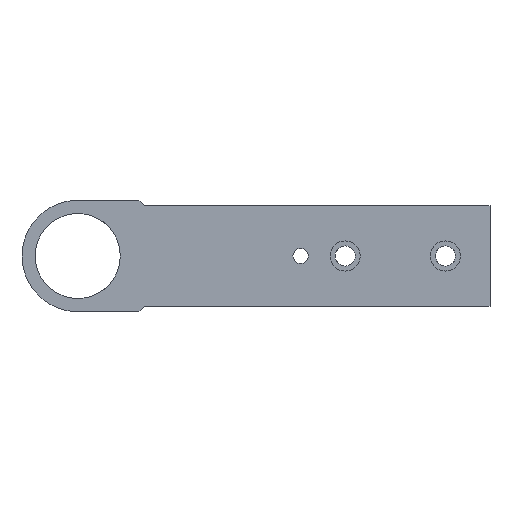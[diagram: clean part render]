
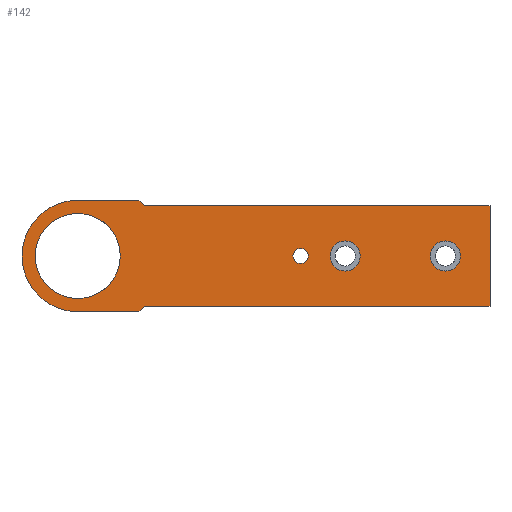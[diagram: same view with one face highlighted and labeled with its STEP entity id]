
A CAD part, top view. The second image highlights one B-rep face of the part: STEP entity #142.
In plain terms, the highlighted planar face has unit normal (0, 0, 1).
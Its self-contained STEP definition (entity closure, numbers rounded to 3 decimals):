
#21 = EDGE_CURVE ( 'NONE', #260, #321, #499, .T. ) ;
#27 = VERTEX_POINT ( 'NONE', #483 ) ;
#30 = ORIENTED_EDGE ( 'NONE', *, *, #406, .F. ) ;
#39 = EDGE_CURVE ( 'NONE', #358, #399, #535, .T. ) ;
#40 = EDGE_LOOP ( 'NONE', ( #66, #46 ) ) ;
#41 = EDGE_CURVE ( 'NONE', #382, #394, #514, .T. ) ;
#42 = EDGE_LOOP ( 'NONE', ( #44, #72 ) ) ;
#43 = EDGE_CURVE ( 'NONE', #346, #345, #479, .T. ) ;
#44 = ORIENTED_EDGE ( 'NONE', *, *, #43, .F. ) ;
#45 = EDGE_LOOP ( 'NONE', ( #86, #79, #84, #80, #73, #78, #108, #122, #57 ) ) ;
#46 = ORIENTED_EDGE ( 'NONE', *, *, #384, .F. ) ;
#47 = ORIENTED_EDGE ( 'NONE', *, *, #316, .T. ) ;
#57 = ORIENTED_EDGE ( 'NONE', *, *, #113, .T. ) ;
#63 = EDGE_LOOP ( 'NONE', ( #47, #106 ) ) ;
#66 = ORIENTED_EDGE ( 'NONE', *, *, #41, .F. ) ;
#71 = VERTEX_POINT ( 'NONE', #584 ) ;
#72 = ORIENTED_EDGE ( 'NONE', *, *, #347, .F. ) ;
#73 = ORIENTED_EDGE ( 'NONE', *, *, #93, .T. ) ;
#77 = EDGE_CURVE ( 'NONE', #100, #85, #592, .T. ) ;
#78 = ORIENTED_EDGE ( 'NONE', *, *, #107, .T. ) ;
#79 = ORIENTED_EDGE ( 'NONE', *, *, #77, .T. ) ;
#80 = ORIENTED_EDGE ( 'NONE', *, *, #160, .T. ) ;
#84 = ORIENTED_EDGE ( 'NONE', *, *, #94, .T. ) ;
#85 = VERTEX_POINT ( 'NONE', #594 ) ;
#86 = ORIENTED_EDGE ( 'NONE', *, *, #87, .T. ) ;
#87 = EDGE_CURVE ( 'NONE', #101, #100, #540, .T. ) ;
#93 = EDGE_CURVE ( 'NONE', #166, #71, #620, .T. ) ;
#94 = EDGE_CURVE ( 'NONE', #85, #27, #621, .T. ) ;
#100 = VERTEX_POINT ( 'NONE', #610 ) ;
#101 = VERTEX_POINT ( 'NONE', #606 ) ;
#102 = VERTEX_POINT ( 'NONE', #605 ) ;
#106 = ORIENTED_EDGE ( 'NONE', *, *, #21, .T. ) ;
#107 = EDGE_CURVE ( 'NONE', #71, #110, #603, .T. ) ;
#108 = ORIENTED_EDGE ( 'NONE', *, *, #109, .T. ) ;
#109 = EDGE_CURVE ( 'NONE', #110, #102, #661, .T. ) ;
#110 = VERTEX_POINT ( 'NONE', #662 ) ;
#113 = EDGE_CURVE ( 'NONE', #114, #101, #653, .T. ) ;
#114 = VERTEX_POINT ( 'NONE', #657 ) ;
#116 = EDGE_CURVE ( 'NONE', #102, #114, #643, .T. ) ;
#122 = ORIENTED_EDGE ( 'NONE', *, *, #116, .T. ) ;
#138 = ORIENTED_EDGE ( 'NONE', *, *, #39, .F. ) ;
#142 = ADVANCED_FACE ( 'NONE', ( #674, #722, #665, #669, #680 ), #673, .T. ) ;
#146 = EDGE_LOOP ( 'NONE', ( #138, #30 ) ) ;
#160 = EDGE_CURVE ( 'NONE', #27, #166, #746, .T. ) ;
#166 = VERTEX_POINT ( 'NONE', #783 ) ;
#260 = VERTEX_POINT ( 'NONE', #872 ) ;
#316 = EDGE_CURVE ( 'NONE', #321, #260, #973, .T. ) ;
#321 = VERTEX_POINT ( 'NONE', #965 ) ;
#345 = VERTEX_POINT ( 'NONE', #1028 ) ;
#346 = VERTEX_POINT ( 'NONE', #1035 ) ;
#347 = EDGE_CURVE ( 'NONE', #345, #346, #1038, .T. ) ;
#358 = VERTEX_POINT ( 'NONE', #1084 ) ;
#382 = VERTEX_POINT ( 'NONE', #1091 ) ;
#384 = EDGE_CURVE ( 'NONE', #394, #382, #1090, .T. ) ;
#394 = VERTEX_POINT ( 'NONE', #1131 ) ;
#399 = VERTEX_POINT ( 'NONE', #1136 ) ;
#406 = EDGE_CURVE ( 'NONE', #399, #358, #1160, .T. ) ;
#479 = CIRCLE ( 'NONE', #522, 6.75 ) ;
#483 = CARTESIAN_POINT ( 'NONE',  ( -25., 0., 6. ) ) ;
#497 = AXIS2_PLACEMENT_3D ( 'NONE', #533, #532, #531 ) ;
#499 = CIRCLE ( 'NONE', #497, 19.079 ) ;
#507 = DIRECTION ( 'NONE',  ( 1., 0., 0. ) ) ;
#508 = DIRECTION ( 'NONE',  ( 0., 0., 1. ) ) ;
#510 = CARTESIAN_POINT ( 'NONE',  ( 100., 0., 6. ) ) ;
#514 = CIRCLE ( 'NONE', #528, 6.75 ) ;
#522 = AXIS2_PLACEMENT_3D ( 'NONE', #561, #559, #558 ) ;
#528 = AXIS2_PLACEMENT_3D ( 'NONE', #564, #563, #562 ) ;
#529 = AXIS2_PLACEMENT_3D ( 'NONE', #510, #508, #507 ) ;
#531 = DIRECTION ( 'NONE',  ( 1., 0., 0. ) ) ;
#532 = DIRECTION ( 'NONE',  ( 0., 0., -1. ) ) ;
#533 = CARTESIAN_POINT ( 'NONE',  ( 0., 0., 6. ) ) ;
#535 = CIRCLE ( 'NONE', #529, 3.4 ) ;
#540 = LINE ( 'NONE', #575, #574 ) ;
#558 = DIRECTION ( 'NONE',  ( 1., 0., 0. ) ) ;
#559 = DIRECTION ( 'NONE',  ( 0., 0., 1. ) ) ;
#561 = CARTESIAN_POINT ( 'NONE',  ( 120., 0., 6. ) ) ;
#562 = DIRECTION ( 'NONE',  ( 1., 0., 0. ) ) ;
#563 = DIRECTION ( 'NONE',  ( 0., 0., 1. ) ) ;
#564 = CARTESIAN_POINT ( 'NONE',  ( 165., 0., 6. ) ) ;
#572 = CARTESIAN_POINT ( 'NONE',  ( 0., 0., 6. ) ) ;
#573 = DIRECTION ( 'NONE',  ( -0.707, 0.707, 0. ) ) ;
#574 = VECTOR ( 'NONE', #573, 1000. ) ;
#575 = CARTESIAN_POINT ( 'NONE',  ( 27.5, 25., 6. ) ) ;
#578 = DIRECTION ( 'NONE',  ( -1., 0., 0. ) ) ;
#584 = CARTESIAN_POINT ( 'NONE',  ( 27.5, -25., 6. ) ) ;
#590 = VECTOR ( 'NONE', #578, 1000. ) ;
#591 = CARTESIAN_POINT ( 'NONE',  ( 0., 25., 6. ) ) ;
#592 = LINE ( 'NONE', #591, #590 ) ;
#594 = CARTESIAN_POINT ( 'NONE',  ( 0., 25., 6. ) ) ;
#602 = CARTESIAN_POINT ( 'NONE',  ( 27.5, -25., 6. ) ) ;
#603 = LINE ( 'NONE', #602, #664 ) ;
#605 = CARTESIAN_POINT ( 'NONE',  ( 185., -22.5, 6. ) ) ;
#606 = CARTESIAN_POINT ( 'NONE',  ( 30., 22.5, 6. ) ) ;
#610 = CARTESIAN_POINT ( 'NONE',  ( 27.5, 25., 6. ) ) ;
#612 = DIRECTION ( 'NONE',  ( 1., 0., 0. ) ) ;
#613 = DIRECTION ( 'NONE',  ( 0., 0., 1. ) ) ;
#617 = DIRECTION ( 'NONE',  ( 1., 0., 0. ) ) ;
#618 = VECTOR ( 'NONE', #617, 1000. ) ;
#619 = CARTESIAN_POINT ( 'NONE',  ( 0., -25., 6. ) ) ;
#620 = LINE ( 'NONE', #619, #618 ) ;
#621 = CIRCLE ( 'NONE', #630, 25. ) ;
#630 = AXIS2_PLACEMENT_3D ( 'NONE', #572, #613, #612 ) ;
#640 = DIRECTION ( 'NONE',  ( 0., 1., 0. ) ) ;
#641 = VECTOR ( 'NONE', #640, 1000. ) ;
#642 = CARTESIAN_POINT ( 'NONE',  ( 185., 22.5, 6. ) ) ;
#643 = LINE ( 'NONE', #642, #641 ) ;
#650 = DIRECTION ( 'NONE',  ( -1., 0., 0. ) ) ;
#651 = VECTOR ( 'NONE', #650, 1000. ) ;
#652 = CARTESIAN_POINT ( 'NONE',  ( 30., 22.5, 6. ) ) ;
#653 = LINE ( 'NONE', #652, #651 ) ;
#657 = CARTESIAN_POINT ( 'NONE',  ( 185., 22.5, 6. ) ) ;
#658 = DIRECTION ( 'NONE',  ( 1., 0., 0. ) ) ;
#659 = VECTOR ( 'NONE', #658, 1000. ) ;
#660 = CARTESIAN_POINT ( 'NONE',  ( 185., -22.5, 6. ) ) ;
#661 = LINE ( 'NONE', #660, #659 ) ;
#662 = CARTESIAN_POINT ( 'NONE',  ( 30., -22.5, 6. ) ) ;
#663 = DIRECTION ( 'NONE',  ( 0.707, 0.707, 0. ) ) ;
#664 = VECTOR ( 'NONE', #663, 1000. ) ;
#665 = FACE_BOUND ( 'NONE', #40, .T. ) ;
#669 = FACE_OUTER_BOUND ( 'NONE', #45, .T. ) ;
#673 = PLANE ( 'NONE',  #723 ) ;
#674 = FACE_BOUND ( 'NONE', #146, .T. ) ;
#680 = FACE_BOUND ( 'NONE', #63, .T. ) ;
#681 = CARTESIAN_POINT ( 'NONE',  ( 0., 0., 6. ) ) ;
#710 = DIRECTION ( 'NONE',  ( 1., 0., 0. ) ) ;
#722 = FACE_BOUND ( 'NONE', #42, .T. ) ;
#723 = AXIS2_PLACEMENT_3D ( 'NONE', #681, #724, #710 ) ;
#724 = DIRECTION ( 'NONE',  ( 0., 0., 1. ) ) ;
#738 = DIRECTION ( 'NONE',  ( 1., 0., 0. ) ) ;
#739 = DIRECTION ( 'NONE',  ( 0., 0., 1. ) ) ;
#740 = CARTESIAN_POINT ( 'NONE',  ( 0., 0., 6. ) ) ;
#743 = AXIS2_PLACEMENT_3D ( 'NONE', #740, #739, #738 ) ;
#746 = CIRCLE ( 'NONE', #743, 25. ) ;
#783 = CARTESIAN_POINT ( 'NONE',  ( 0., -25., 6. ) ) ;
#872 = CARTESIAN_POINT ( 'NONE',  ( 19.079, 0., 6. ) ) ;
#965 = CARTESIAN_POINT ( 'NONE',  ( -19.079, 0., 6. ) ) ;
#967 = DIRECTION ( 'NONE',  ( 1., 0., 0. ) ) ;
#968 = DIRECTION ( 'NONE',  ( 0., 0., -1. ) ) ;
#969 = CARTESIAN_POINT ( 'NONE',  ( 0., 0., 6. ) ) ;
#970 = AXIS2_PLACEMENT_3D ( 'NONE', #969, #968, #967 ) ;
#973 = CIRCLE ( 'NONE', #970, 19.079 ) ;
#1025 = AXIS2_PLACEMENT_3D ( 'NONE', #1033, #1081, #1080 ) ;
#1028 = CARTESIAN_POINT ( 'NONE',  ( 113.25, 0., 6. ) ) ;
#1033 = CARTESIAN_POINT ( 'NONE',  ( 120., 0., 6. ) ) ;
#1035 = CARTESIAN_POINT ( 'NONE',  ( 126.75, 0., 6. ) ) ;
#1038 = CIRCLE ( 'NONE', #1025, 6.75 ) ;
#1080 = DIRECTION ( 'NONE',  ( 1., 0., 0. ) ) ;
#1081 = DIRECTION ( 'NONE',  ( 0., 0., 1. ) ) ;
#1084 = CARTESIAN_POINT ( 'NONE',  ( 103.4, 0., 6. ) ) ;
#1090 = CIRCLE ( 'NONE', #1108, 6.75 ) ;
#1091 = CARTESIAN_POINT ( 'NONE',  ( 171.75, 0., 6. ) ) ;
#1096 = CARTESIAN_POINT ( 'NONE',  ( 165., 0., 6. ) ) ;
#1108 = AXIS2_PLACEMENT_3D ( 'NONE', #1096, #1143, #1142 ) ;
#1131 = CARTESIAN_POINT ( 'NONE',  ( 158.25, 0., 6. ) ) ;
#1136 = CARTESIAN_POINT ( 'NONE',  ( 96.6, 0., 6. ) ) ;
#1142 = DIRECTION ( 'NONE',  ( 1., 0., 0. ) ) ;
#1143 = DIRECTION ( 'NONE',  ( 0., 0., 1. ) ) ;
#1155 = DIRECTION ( 'NONE',  ( 1., 0., 0. ) ) ;
#1156 = DIRECTION ( 'NONE',  ( 0., 0., 1. ) ) ;
#1157 = CARTESIAN_POINT ( 'NONE',  ( 100., 0., 6. ) ) ;
#1160 = CIRCLE ( 'NONE', #1169, 3.4 ) ;
#1169 = AXIS2_PLACEMENT_3D ( 'NONE', #1157, #1156, #1155 ) ;
